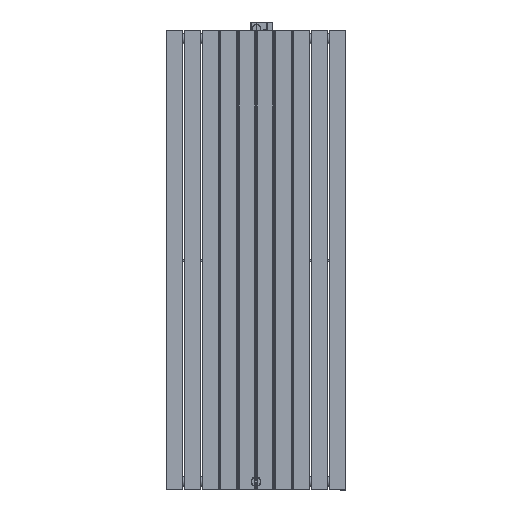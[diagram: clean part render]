
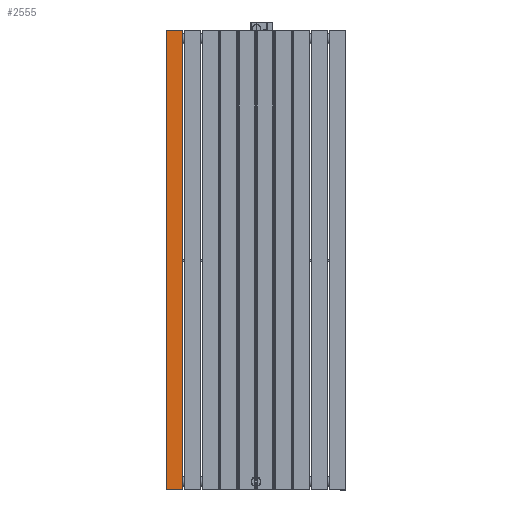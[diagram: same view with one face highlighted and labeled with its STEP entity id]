
A CAD part, front view. The second image highlights one B-rep face of the part: STEP entity #2555.
In plain terms, the highlighted planar face has unit normal (0, -1, 0) as drawn and (0, 1, 0) by its records, which use the part's own axes.
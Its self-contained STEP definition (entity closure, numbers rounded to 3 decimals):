
#2555 = ADVANCED_FACE( '', ( #5328 ), #5329, .F. );
#5328 = FACE_OUTER_BOUND( '', #8937, .T. );
#5329 = PLANE( '', #8938 );
#8937 = EDGE_LOOP( '', ( #16225, #16226, #16227, #16228 ) );
#8938 = AXIS2_PLACEMENT_3D( '', #16229, #16230, #16231 );
#16225 = ORIENTED_EDGE( '', *, *, #19433, .T. );
#16226 = ORIENTED_EDGE( '', *, *, #20756, .T. );
#16227 = ORIENTED_EDGE( '', *, *, #18657, .T. );
#16228 = ORIENTED_EDGE( '', *, *, #19802, .T. );
#16229 = CARTESIAN_POINT( '', ( 60., 10., 1650. ) );
#16230 = DIRECTION( '', ( 0., -1., 0. ) );
#16231 = DIRECTION( '', ( 0., 0., -1. ) );
#18657 = EDGE_CURVE( '', #21629, #21630, #21631, .T. );
#19433 = EDGE_CURVE( '', #22912, #22910, #22913, .F. );
#19802 = EDGE_CURVE( '', #21630, #22912, #23457, .T. );
#20756 = EDGE_CURVE( '', #22910, #21629, #24718, .F. );
#21629 = VERTEX_POINT( '', #26998 );
#21630 = VERTEX_POINT( '', #26999 );
#21631 = LINE( '', #27000, #27001 );
#22910 = VERTEX_POINT( '', #31447 );
#22912 = VERTEX_POINT( '', #31449 );
#22913 = LINE( '', #31450, #31451 );
#23457 = LINE( '', #33016, #33017 );
#24718 = LINE( '', #36254, #36255 );
#26998 = CARTESIAN_POINT( '', ( 59., 10., 1649. ) );
#26999 = CARTESIAN_POINT( '', ( 59., 10., 1. ) );
#27000 = CARTESIAN_POINT( '', ( 59., 10., 1650. ) );
#27001 = VECTOR( '', #37465, 1000. );
#31447 = CARTESIAN_POINT( '', ( 1., 10., 1649. ) );
#31449 = CARTESIAN_POINT( '', ( 1., 10., 1. ) );
#31450 = CARTESIAN_POINT( '', ( 1., 10., 1650. ) );
#31451 = VECTOR( '', #38418, 1000. );
#33016 = CARTESIAN_POINT( '', ( 60., 10., 1. ) );
#33017 = VECTOR( '', #38874, 1000. );
#36254 = CARTESIAN_POINT( '', ( 59., 10., 1649. ) );
#36255 = VECTOR( '', #39837, 1000. );
#37465 = DIRECTION( '', ( 0., 0., -1. ) );
#38418 = DIRECTION( '', ( 0., 0., -1. ) );
#38874 = DIRECTION( '', ( -1., 0., 0. ) );
#39837 = DIRECTION( '', ( -1., 0., 0. ) );
